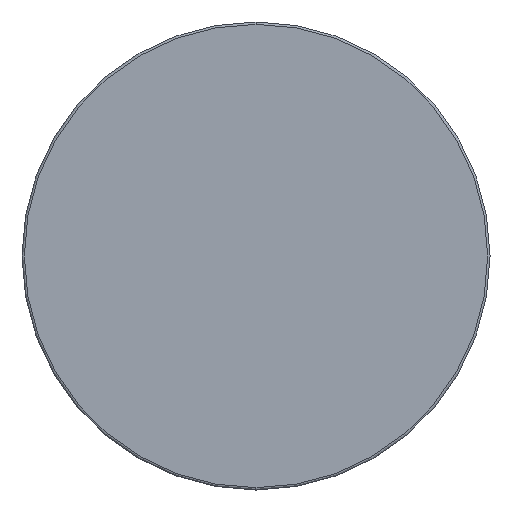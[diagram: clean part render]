
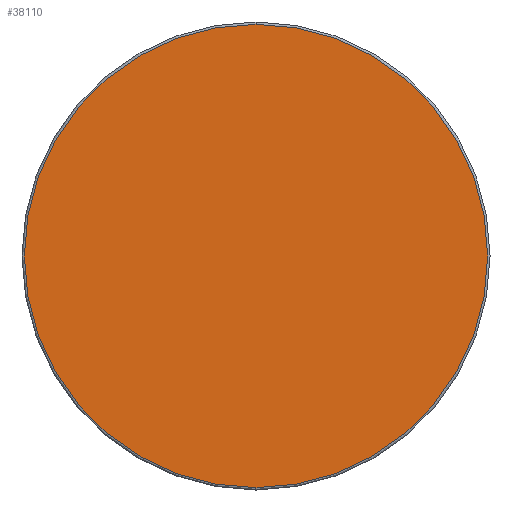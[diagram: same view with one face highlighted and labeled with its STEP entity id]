
A CAD part, front view. The second image highlights one B-rep face of the part: STEP entity #38110.
In plain terms, the highlighted planar face has unit normal (0, -1, 0) as drawn and (1, 0, 0) by its records, which use the part's own axes.
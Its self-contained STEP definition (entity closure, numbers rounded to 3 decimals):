
#2528 = DIRECTION ( 'NONE',  ( 0., 0., -1. ) ) ;
#12136 = EDGE_CURVE ( 'NONE', #28237, #17889, #30531, .T. ) ;
#12496 = PLANE ( 'NONE',  #54307 ) ;
#13368 = AXIS2_PLACEMENT_3D ( 'NONE', #48531, #22494, #47704 ) ;
#16687 = ORIENTED_EDGE ( 'NONE', *, *, #12136, .T. ) ;
#16739 = FACE_OUTER_BOUND ( 'NONE', #38737, .T. ) ;
#17889 = VERTEX_POINT ( 'NONE', #20168 ) ;
#20168 = CARTESIAN_POINT ( 'NONE',  ( 13.673, 0., -14.85 ) ) ;
#20924 = CIRCLE ( 'NONE', #35370, 14.85 ) ;
#22494 = DIRECTION ( 'NONE',  ( 1., 0., 0. ) ) ;
#23738 = CARTESIAN_POINT ( 'NONE',  ( 13.673, 0., 0. ) ) ;
#24029 = DIRECTION ( 'NONE',  ( 1., 0., 0. ) ) ;
#24931 = DIRECTION ( 'NONE',  ( 1., 0., 0. ) ) ;
#25598 = CARTESIAN_POINT ( 'NONE',  ( 13.673, 0., 14.85 ) ) ;
#28237 = VERTEX_POINT ( 'NONE', #25598 ) ;
#29172 = CARTESIAN_POINT ( 'NONE',  ( 13.673, 15., 0. ) ) ;
#30531 = CIRCLE ( 'NONE', #13368, 14.85 ) ;
#32309 = ORIENTED_EDGE ( 'NONE', *, *, #38419, .T. ) ;
#35370 = AXIS2_PLACEMENT_3D ( 'NONE', #23738, #24029, #2528 ) ;
#38110 = ADVANCED_FACE ( 'NONE', ( #16739 ), #12496, .T. ) ;
#38419 = EDGE_CURVE ( 'NONE', #17889, #28237, #20924, .T. ) ;
#38737 = EDGE_LOOP ( 'NONE', ( #32309, #16687 ) ) ;
#41888 = DIRECTION ( 'NONE',  ( 0., 0., -1. ) ) ;
#47704 = DIRECTION ( 'NONE',  ( 0., 0., -1. ) ) ;
#48531 = CARTESIAN_POINT ( 'NONE',  ( 13.673, 0., 0. ) ) ;
#54307 = AXIS2_PLACEMENT_3D ( 'NONE', #29172, #24931, #41888 ) ;
